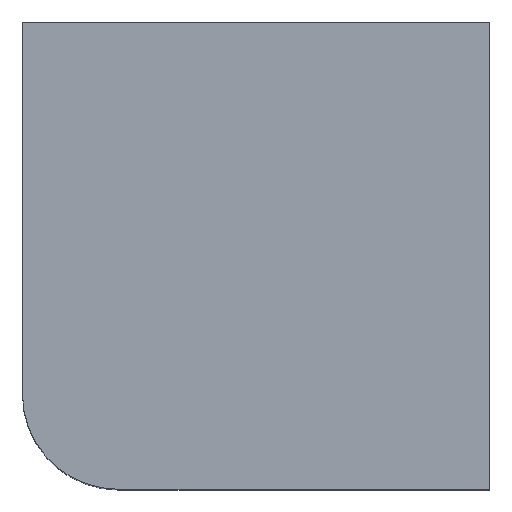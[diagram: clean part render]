
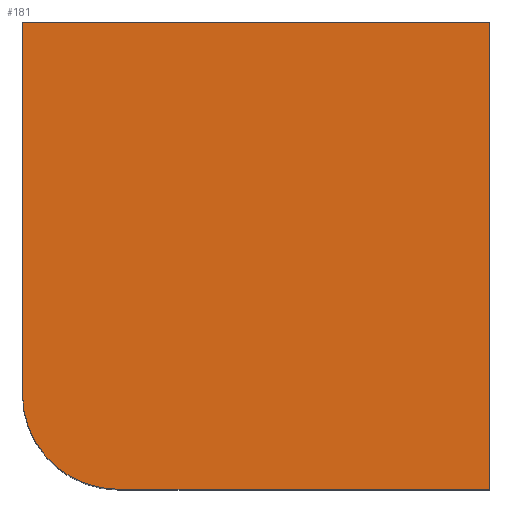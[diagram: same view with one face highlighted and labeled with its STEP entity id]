
A CAD part, top view. The second image highlights one B-rep face of the part: STEP entity #181.
In plain terms, the highlighted planar face has unit normal (0, 0, 1).
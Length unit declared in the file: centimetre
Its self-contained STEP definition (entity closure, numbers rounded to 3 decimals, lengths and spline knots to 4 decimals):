
#1 = CARTESIAN_POINT ( 'NONE',  ( 0., 0., 1000. ) ) ;
#8 = VECTOR ( 'NONE', #86, 100. ) ;
#18 = AXIS2_PLACEMENT_3D ( 'NONE', #235, #231, #96 ) ;
#21 = FACE_OUTER_BOUND ( 'NONE', #79, .T. ) ;
#22 = DIRECTION ( 'NONE',  ( 0., 1., 0. ) ) ;
#29 = AXIS2_PLACEMENT_3D ( 'NONE', #193, #305, #160 ) ;
#42 = CARTESIAN_POINT ( 'NONE',  ( 0., 1000., 1000. ) ) ;
#46 = EDGE_CURVE ( 'NONE', #353, #347, #75, .T. ) ;
#51 = DIRECTION ( 'NONE',  ( 0., -1., 0. ) ) ;
#67 = VERTEX_POINT ( 'NONE', #393 ) ;
#75 = LINE ( 'NONE', #1, #400 ) ;
#79 = EDGE_LOOP ( 'NONE', ( #316, #117, #237, #108, #275 ) ) ;
#81 = CIRCLE ( 'NONE', #29, 204.3654 ) ;
#86 = DIRECTION ( 'NONE',  ( -1., 0., 0. ) ) ;
#90 = CARTESIAN_POINT ( 'NONE',  ( 204.3654, 0., 1000. ) ) ;
#96 = DIRECTION ( 'NONE',  ( 1., 0., 0. ) ) ;
#102 = EDGE_CURVE ( 'NONE', #347, #67, #199, .T. ) ;
#105 = EDGE_CURVE ( 'NONE', #205, #189, #166, .T. ) ;
#108 = ORIENTED_EDGE ( 'NONE', *, *, #102, .T. ) ;
#117 = ORIENTED_EDGE ( 'NONE', *, *, #259, .T. ) ;
#160 = DIRECTION ( 'NONE',  ( 1., 0., 0. ) ) ;
#162 = VECTOR ( 'NONE', #51, 100. ) ;
#166 = LINE ( 'NONE', #363, #162 ) ;
#181 = ADVANCED_FACE ( 'NONE', ( #21 ), #287, .T. ) ;
#189 = VERTEX_POINT ( 'NONE', #290 ) ;
#193 = CARTESIAN_POINT ( 'NONE',  ( 204.3654, 204.3654, 1000. ) ) ;
#199 = LINE ( 'NONE', #312, #328 ) ;
#205 = VERTEX_POINT ( 'NONE', #42 ) ;
#231 = DIRECTION ( 'NONE',  ( 0., 0., 1. ) ) ;
#235 = CARTESIAN_POINT ( 'NONE',  ( 0., 0., 1000. ) ) ;
#237 = ORIENTED_EDGE ( 'NONE', *, *, #46, .T. ) ;
#256 = CARTESIAN_POINT ( 'NONE',  ( 0., 1000., 1000. ) ) ;
#259 = EDGE_CURVE ( 'NONE', #189, #353, #81, .T. ) ;
#275 = ORIENTED_EDGE ( 'NONE', *, *, #315, .T. ) ;
#287 = PLANE ( 'NONE',  #18 ) ;
#290 = CARTESIAN_POINT ( 'NONE',  ( 0., 204.3654, 1000. ) ) ;
#305 = DIRECTION ( 'NONE',  ( 0., 0., 1. ) ) ;
#312 = CARTESIAN_POINT ( 'NONE',  ( 1000., 1000., 1000. ) ) ;
#315 = EDGE_CURVE ( 'NONE', #67, #205, #402, .T. ) ;
#316 = ORIENTED_EDGE ( 'NONE', *, *, #105, .T. ) ;
#323 = DIRECTION ( 'NONE',  ( 1., 0., 0. ) ) ;
#328 = VECTOR ( 'NONE', #22, 100. ) ;
#347 = VERTEX_POINT ( 'NONE', #371 ) ;
#353 = VERTEX_POINT ( 'NONE', #90 ) ;
#363 = CARTESIAN_POINT ( 'NONE',  ( 0., 1000., 1000. ) ) ;
#371 = CARTESIAN_POINT ( 'NONE',  ( 1000., 0., 1000. ) ) ;
#393 = CARTESIAN_POINT ( 'NONE',  ( 1000., 1000., 1000. ) ) ;
#400 = VECTOR ( 'NONE', #323, 100. ) ;
#402 = LINE ( 'NONE', #256, #8 ) ;
